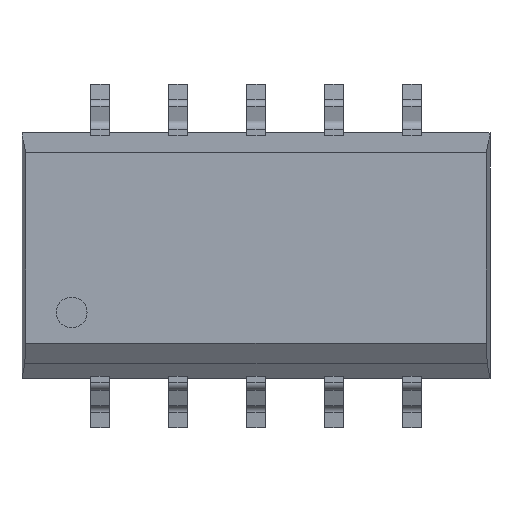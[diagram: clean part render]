
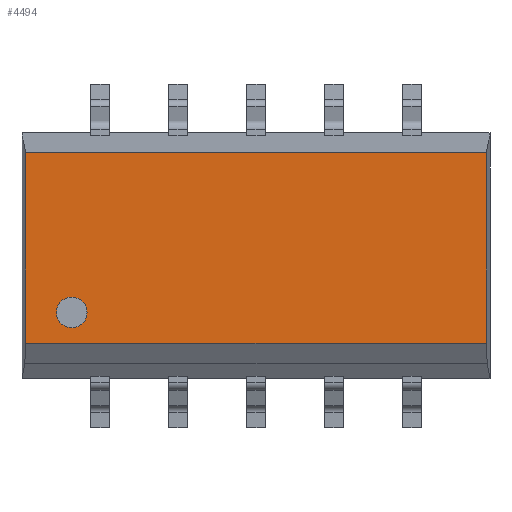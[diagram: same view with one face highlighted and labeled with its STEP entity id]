
A CAD part, top view. The second image highlights one B-rep face of the part: STEP entity #4494.
In plain terms, the highlighted planar face has unit normal (0, 0, 1).
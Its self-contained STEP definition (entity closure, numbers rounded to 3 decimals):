
#41 = VERTEX_POINT ( 'NONE', #5970 ) ;
#45 = LINE ( 'NONE', #790, #5444 ) ;
#133 = CIRCLE ( 'NONE', #6676, 0.5 ) ;
#139 = LINE ( 'NONE', #2376, #5527 ) ;
#303 = EDGE_CURVE ( 'NONE', #2328, #2889, #139, .T. ) ;
#336 = EDGE_CURVE ( 'NONE', #776, #2328, #6407, .T. ) ;
#422 = EDGE_CURVE ( 'NONE', #2889, #2561, #45, .T. ) ;
#556 = EDGE_CURVE ( 'NONE', #2561, #776, #6101, .T. ) ;
#776 = VERTEX_POINT ( 'NONE', #4201 ) ;
#790 = CARTESIAN_POINT ( 'NONE',  ( 3.75, -2.85, 2. ) ) ;
#892 = VECTOR ( 'NONE', #2246, 1000. ) ;
#1042 = CARTESIAN_POINT ( 'NONE',  ( 0., 0., 2. ) ) ;
#1276 = DIRECTION ( 'NONE',  ( -1., 0., 0. ) ) ;
#1326 = ORIENTED_EDGE ( 'NONE', *, *, #303, .F. ) ;
#1371 = ORIENTED_EDGE ( 'NONE', *, *, #5721, .T. ) ;
#1414 = FACE_OUTER_BOUND ( 'NONE', #2482, .T. ) ;
#1419 = ORIENTED_EDGE ( 'NONE', *, *, #1744, .T. ) ;
#1572 = DIRECTION ( 'NONE',  ( 0., -1., 0. ) ) ;
#1744 = EDGE_CURVE ( 'NONE', #3851, #41, #133, .T. ) ;
#1842 = CARTESIAN_POINT ( 'NONE',  ( -7.5, 3.35, 2. ) ) ;
#2093 = VECTOR ( 'NONE', #6305, 1000. ) ;
#2200 = DIRECTION ( 'NONE',  ( 0., -1., 0. ) ) ;
#2246 = DIRECTION ( 'NONE',  ( 1., 0., 0. ) ) ;
#2327 = EDGE_LOOP ( 'NONE', ( #1419, #1371 ) ) ;
#2328 = VERTEX_POINT ( 'NONE', #2384 ) ;
#2376 = CARTESIAN_POINT ( 'NONE',  ( 7.5, 3.35, 2. ) ) ;
#2384 = CARTESIAN_POINT ( 'NONE',  ( 7.5, 3.35, 2. ) ) ;
#2482 = EDGE_LOOP ( 'NONE', ( #4204, #3064, #2804, #1326 ) ) ;
#2512 = CARTESIAN_POINT ( 'NONE',  ( -6.5, -1.85, 2. ) ) ;
#2534 = DIRECTION ( 'NONE',  ( 0., 0., -1. ) ) ;
#2561 = VERTEX_POINT ( 'NONE', #5849 ) ;
#2573 = PLANE ( 'NONE',  #4365 ) ;
#2804 = ORIENTED_EDGE ( 'NONE', *, *, #422, .F. ) ;
#2889 = VERTEX_POINT ( 'NONE', #3995 ) ;
#3064 = ORIENTED_EDGE ( 'NONE', *, *, #556, .F. ) ;
#3121 = CIRCLE ( 'NONE', #5222, 0.5 ) ;
#3341 = DIRECTION ( 'NONE',  ( 0., 0., -1. ) ) ;
#3499 = CARTESIAN_POINT ( 'NONE',  ( -6., -1.85, 2. ) ) ;
#3851 = VERTEX_POINT ( 'NONE', #2512 ) ;
#3995 = CARTESIAN_POINT ( 'NONE',  ( 7.5, -2.85, 2. ) ) ;
#4182 = FACE_BOUND ( 'NONE', #2327, .T. ) ;
#4201 = CARTESIAN_POINT ( 'NONE',  ( -7.5, 3.35, 2. ) ) ;
#4204 = ORIENTED_EDGE ( 'NONE', *, *, #336, .F. ) ;
#4365 = AXIS2_PLACEMENT_3D ( 'NONE', #1042, #4675, #1572 ) ;
#4494 = ADVANCED_FACE ( 'NONE', ( #4182, #1414 ), #2573, .T. ) ;
#4675 = DIRECTION ( 'NONE',  ( 0., 0., 1. ) ) ;
#5222 = AXIS2_PLACEMENT_3D ( 'NONE', #5651, #2534, #6175 ) ;
#5444 = VECTOR ( 'NONE', #1276, 1000. ) ;
#5527 = VECTOR ( 'NONE', #2200, 1000. ) ;
#5651 = CARTESIAN_POINT ( 'NONE',  ( -6., -1.85, 2. ) ) ;
#5721 = EDGE_CURVE ( 'NONE', #41, #3851, #3121, .T. ) ;
#5849 = CARTESIAN_POINT ( 'NONE',  ( -7.5, -2.85, 2. ) ) ;
#5970 = CARTESIAN_POINT ( 'NONE',  ( -5.5, -1.85, 2. ) ) ;
#6101 = LINE ( 'NONE', #6213, #2093 ) ;
#6175 = DIRECTION ( 'NONE',  ( -1., 0., 0. ) ) ;
#6213 = CARTESIAN_POINT ( 'NONE',  ( -7.5, -3.35, 2. ) ) ;
#6305 = DIRECTION ( 'NONE',  ( 0., 1., 0. ) ) ;
#6407 = LINE ( 'NONE', #1842, #892 ) ;
#6567 = DIRECTION ( 'NONE',  ( -1., 0., 0. ) ) ;
#6676 = AXIS2_PLACEMENT_3D ( 'NONE', #3499, #3341, #6567 ) ;
